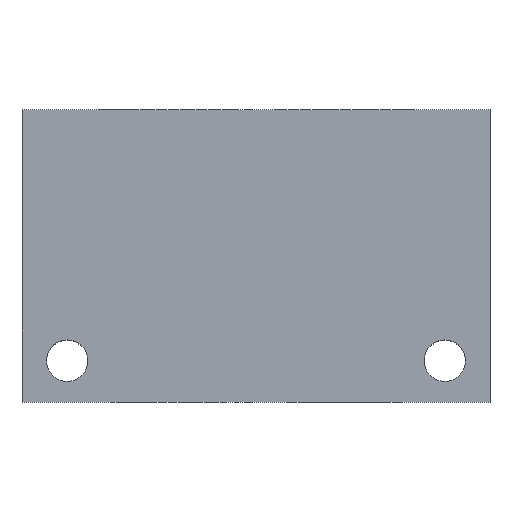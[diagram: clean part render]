
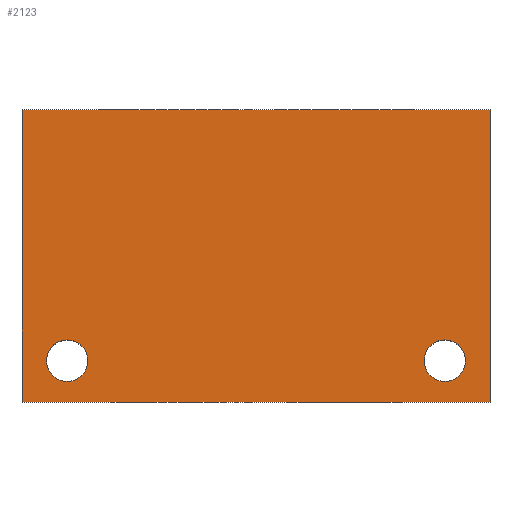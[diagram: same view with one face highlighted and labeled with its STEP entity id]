
A CAD part, top view. The second image highlights one B-rep face of the part: STEP entity #2123.
In plain terms, the highlighted planar face has unit normal (0, 0, 1).
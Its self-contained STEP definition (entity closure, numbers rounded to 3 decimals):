
#16=DIRECTION('',(0.,-1.,0.));
#17=VECTOR('',#16,63.5);
#18=CARTESIAN_POINT('',(0.,63.5,0.));
#19=LINE('',#18,#17);
#20=DIRECTION('',(-1.,0.,0.));
#21=VECTOR('',#20,101.6);
#22=CARTESIAN_POINT('',(101.6,63.5,0.));
#23=LINE('',#22,#21);
#24=DIRECTION('',(0.,1.,0.));
#25=VECTOR('',#24,63.5);
#26=CARTESIAN_POINT('',(101.6,0.,0.));
#27=LINE('',#26,#25);
#28=DIRECTION('',(1.,0.,0.));
#29=VECTOR('',#28,101.6);
#30=CARTESIAN_POINT('',(0.,0.,0.));
#31=LINE('',#30,#29);
#32=CARTESIAN_POINT('',(9.8,9.,0.));
#33=DIRECTION('',(0.,0.,-1.));
#34=DIRECTION('',(-1.,0.,0.));
#35=AXIS2_PLACEMENT_3D('',#32,#33,#34);
#37=CARTESIAN_POINT('',(9.8,9.,0.));
#38=DIRECTION('',(0.,0.,-1.));
#39=DIRECTION('',(1.,0.,0.));
#40=AXIS2_PLACEMENT_3D('',#37,#38,#39);
#42=CARTESIAN_POINT('',(91.8,9.,0.));
#43=DIRECTION('',(0.,0.,-1.));
#44=DIRECTION('',(-1.,0.,0.));
#45=AXIS2_PLACEMENT_3D('',#42,#43,#44);
#47=CARTESIAN_POINT('',(91.8,9.,0.));
#48=DIRECTION('',(0.,0.,-1.));
#49=DIRECTION('',(1.,0.,0.));
#50=AXIS2_PLACEMENT_3D('',#47,#48,#49);
#1819=CARTESIAN_POINT('',(0.,63.5,0.));
#1820=CARTESIAN_POINT('',(0.,0.,0.));
#1821=VERTEX_POINT('',#1819);
#1822=VERTEX_POINT('',#1820);
#1823=CARTESIAN_POINT('',(101.6,0.,0.));
#1824=VERTEX_POINT('',#1823);
#1825=CARTESIAN_POINT('',(101.6,63.5,0.));
#1826=VERTEX_POINT('',#1825);
#1835=CARTESIAN_POINT('',(5.3,9.,0.));
#1836=CARTESIAN_POINT('',(14.3,9.,0.));
#1837=VERTEX_POINT('',#1835);
#1838=VERTEX_POINT('',#1836);
#1843=CARTESIAN_POINT('',(87.3,9.,0.));
#1844=CARTESIAN_POINT('',(96.3,9.,0.));
#1845=VERTEX_POINT('',#1843);
#1846=VERTEX_POINT('',#1844);
#2096=CARTESIAN_POINT('',(0.,0.,0.));
#2097=DIRECTION('',(0.,0.,1.));
#2098=DIRECTION('',(1.,0.,0.));
#2099=AXIS2_PLACEMENT_3D('',#2096,#2097,#2098);
#2100=PLANE('',#2099);
#2102=ORIENTED_EDGE('',*,*,#2101,.F.);
#2104=ORIENTED_EDGE('',*,*,#2103,.F.);
#2106=ORIENTED_EDGE('',*,*,#2105,.F.);
#2108=ORIENTED_EDGE('',*,*,#2107,.F.);
#2109=EDGE_LOOP('',(#2102,#2104,#2106,#2108));
#2110=FACE_OUTER_BOUND('',#2109,.F.);
#2112=ORIENTED_EDGE('',*,*,#2111,.F.);
#2114=ORIENTED_EDGE('',*,*,#2113,.F.);
#2115=EDGE_LOOP('',(#2112,#2114));
#2116=FACE_BOUND('',#2115,.F.);
#2118=ORIENTED_EDGE('',*,*,#2117,.F.);
#2120=ORIENTED_EDGE('',*,*,#2119,.F.);
#2121=EDGE_LOOP('',(#2118,#2120));
#2122=FACE_BOUND('',#2121,.F.);
#36=CIRCLE('',#35,4.5);
#41=CIRCLE('',#40,4.5);
#46=CIRCLE('',#45,4.5);
#51=CIRCLE('',#50,4.5);
#2101=EDGE_CURVE('',#1821,#1822,#19,.T.);
#2103=EDGE_CURVE('',#1826,#1821,#23,.T.);
#2105=EDGE_CURVE('',#1824,#1826,#27,.T.);
#2107=EDGE_CURVE('',#1822,#1824,#31,.T.);
#2111=EDGE_CURVE('',#1837,#1838,#36,.T.);
#2113=EDGE_CURVE('',#1838,#1837,#41,.T.);
#2117=EDGE_CURVE('',#1845,#1846,#46,.T.);
#2119=EDGE_CURVE('',#1846,#1845,#51,.T.);
#2123=ADVANCED_FACE('',(#2110,#2116,#2122),#2100,.T.);
